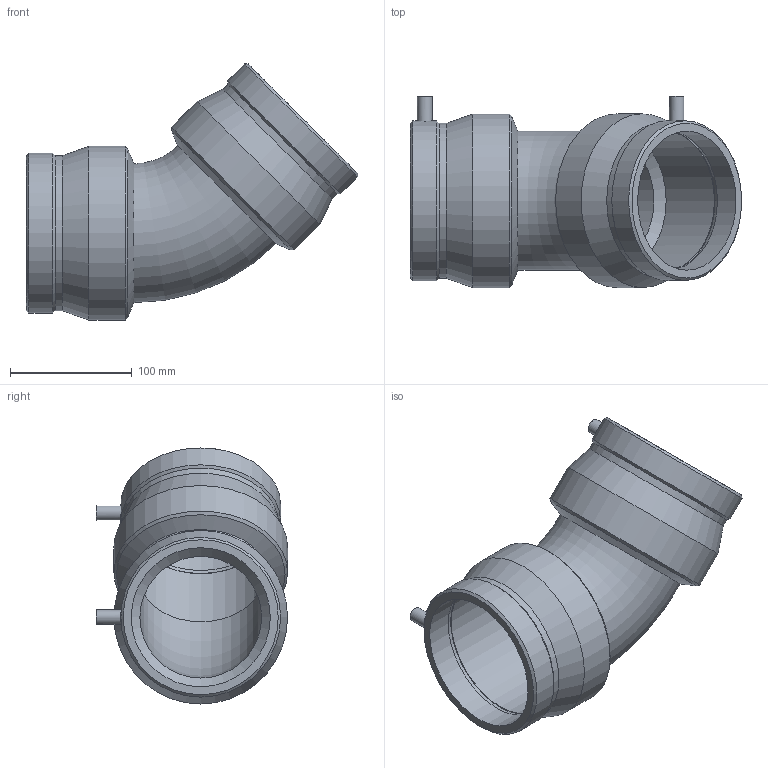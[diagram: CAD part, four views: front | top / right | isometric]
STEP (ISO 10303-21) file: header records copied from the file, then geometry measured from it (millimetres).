
FILE_DESCRIPTION(/* description */ ('PLASSON 45° ELBOW 4'''''),/* implementation_level */ '2;1');
FILE_NAME(/* name */ 'C:\Dropbox\KIMPROJECTS-Inventor 2019\99-16-3568-Processing Inch\ASTM ElectroFusion 2021\5906B\5906B003040.ipt.stp',/* time_stamp */ '2021-08-30T09:50:08+03:00',/* author */ ('KIM'),/* organization */ (''),/* preprocessor_version */ 'ST-DEVELOPER v17.2',/* originating_system */ 'Autodesk Inventor 2019',/* authorisation */ '');
FILE_SCHEMA (('AUTOMOTIVE_DESIGN { 1 0 10303 214 3 1 1 }'));
Length unit declared in the file: inch
Products named in the file (1): 5906B003040
Bounding box: 271.78 x 156.84 x 210.16 mm (x, y, z)
Volume: 965295.1 mm3; surface area: 214104 mm2
Topology: 1 solids, 1 shells, 42 faces, 108 edges, 76 vertices
Faces by surface type: cylinder 16, cone 14, plane 10, torus 2
Full cylindrical faces by diameter (mm): 4.8 x2, 9.6 x2, 12 x2, 114.1 x4, 127.162 x2, 131.094 x2, 142.494 x2
Entity records: 1449 total; most frequent: CARTESIAN_POINT 295, DIRECTION 264, ORIENTED_EDGE 216, AXIS2_PLACEMENT_3D 117, EDGE_CURVE 108, VERTEX_POINT 76, CIRCLE 74, EDGE_LOOP 52
